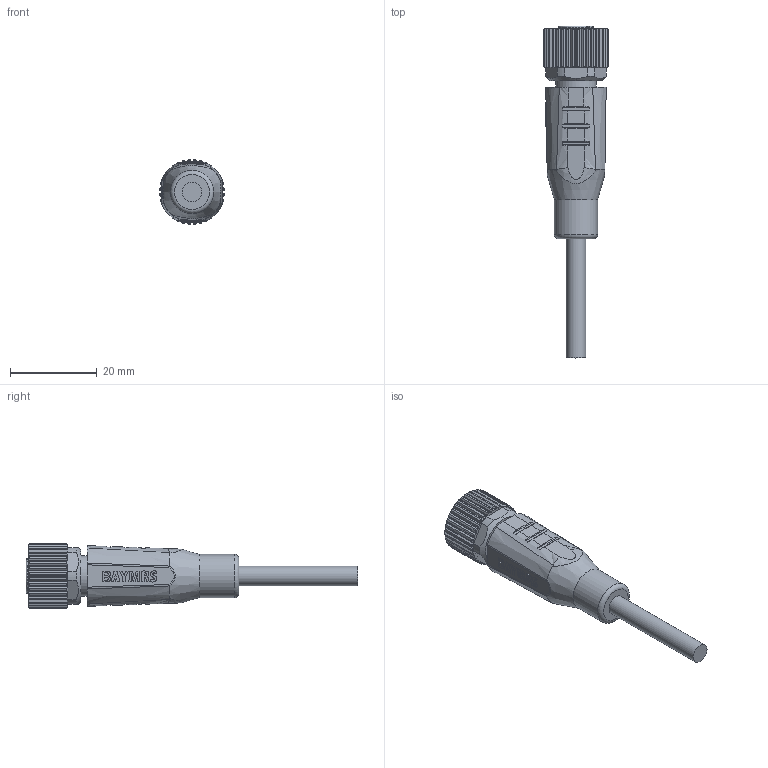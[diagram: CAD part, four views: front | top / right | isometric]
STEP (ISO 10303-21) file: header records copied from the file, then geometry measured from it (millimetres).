
FILE_DESCRIPTION(/* description */ (''),/* implementation_level */ '2;1');
FILE_NAME(/* name */ 'M12-5FS-L.stp',/* time_stamp */ '2021-11-08T18:40:27+08:00',/* author */ (''),/* organization */ (''),/* preprocessor_version */ 'ST-DEVELOPER v16.7',/* originating_system */ 'SIEMENS PLM Software NX 12.0',/* authorisation */ '');
FILE_SCHEMA (('AP203_CONFIGURATION_CONTROLLED_3D_DESIGN_OF_MECHANICAL_PARTS_AND_ASSEMBLIES_MIM_LF { 1 0 10303 403 2 1 2}'));
Length unit declared in the file: millimetre
Products named in the file (1): Admi025C11D08fju
Bounding box: 14.98 x 76.6 x 14.98 mm (x, y, z)
Volume: 6462.3 mm3; surface area: 5056.7 mm2
Topology: 2 solids, 7 shells, 629 faces, 1782 edges, 1175 vertices
Faces by surface type: plane 241, cylinder 214, cone 117, bspline 22, extrusion 22, torus 13
Full cylindrical faces by diameter (mm): 1.2 x5, 2.1 x10, 4.5 x1, 9.4 x1, 10 x1, 10.8 x1, 12 x9
Entity records: 23306 total; most frequent: CARTESIAN_POINT 7555, ORIENTED_EDGE 3414, DIRECTION 3075, EDGE_CURVE 1707, VERTEX_POINT 1149, AXIS2_PLACEMENT_3D 1139, VECTOR 797, LINE 775
